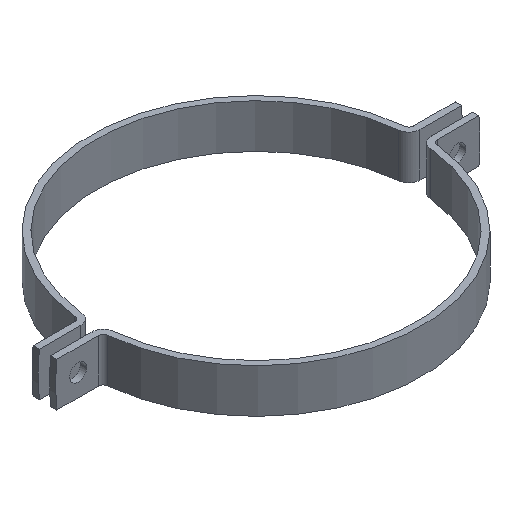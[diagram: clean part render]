
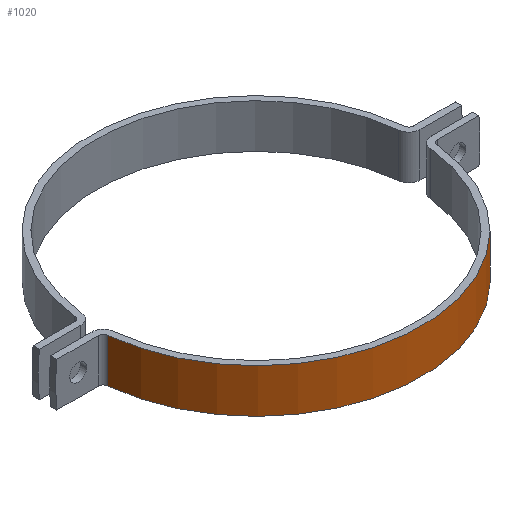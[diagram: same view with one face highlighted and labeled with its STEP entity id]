
A CAD part, isometric view. The second image highlights one B-rep face of the part: STEP entity #1020.
In plain terms, the highlighted cylindrical face has radius 264 mm (diameter 528 mm), a partial arc.
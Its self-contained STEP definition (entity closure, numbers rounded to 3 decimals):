
#41 = DIRECTION ( 'NONE',  ( 0., 0., 1. ) ) ;
#44 = DIRECTION ( 'NONE',  ( 0., 0., 1. ) ) ;
#45 = ORIENTED_EDGE ( 'NONE', *, *, #581, .F. ) ;
#70 = DIRECTION ( 'NONE',  ( 0., 0., 1. ) ) ;
#129 = EDGE_CURVE ( 'NONE', #611, #273, #706, .T. ) ;
#272 = LINE ( 'NONE', #671, #831 ) ;
#273 = VERTEX_POINT ( 'NONE', #1110 ) ;
#278 = DIRECTION ( 'NONE',  ( 0., 0., 1. ) ) ;
#293 = ORIENTED_EDGE ( 'NONE', *, *, #129, .T. ) ;
#295 = EDGE_CURVE ( 'NONE', #989, #1151, #466, .T. ) ;
#358 = CARTESIAN_POINT ( 'NONE',  ( 0., 0., 0. ) ) ;
#363 = CYLINDRICAL_SURFACE ( 'NONE', #814, 264. ) ;
#401 = CARTESIAN_POINT ( 'NONE',  ( 262.696, -26.206, 0. ) ) ;
#453 = ORIENTED_EDGE ( 'NONE', *, *, #1045, .T. ) ;
#466 = CIRCLE ( 'NONE', #729, 264. ) ;
#467 = EDGE_LOOP ( 'NONE', ( #1080, #45, #293, #453 ) ) ;
#513 = CARTESIAN_POINT ( 'NONE',  ( -262.696, -26.206, -70. ) ) ;
#567 = DIRECTION ( 'NONE',  ( 1., 0., 0. ) ) ;
#581 = EDGE_CURVE ( 'NONE', #611, #989, #990, .T. ) ;
#592 = AXIS2_PLACEMENT_3D ( 'NONE', #761, #863, #567 ) ;
#611 = VERTEX_POINT ( 'NONE', #513 ) ;
#671 = CARTESIAN_POINT ( 'NONE',  ( 262.696, -26.206, -70. ) ) ;
#706 = CIRCLE ( 'NONE', #592, 264. ) ;
#729 = AXIS2_PLACEMENT_3D ( 'NONE', #358, #70, #740 ) ;
#740 = DIRECTION ( 'NONE',  ( 1., 0., 0. ) ) ;
#761 = CARTESIAN_POINT ( 'NONE',  ( 0., 0., -70. ) ) ;
#814 = AXIS2_PLACEMENT_3D ( 'NONE', #1127, #278, #1116 ) ;
#831 = VECTOR ( 'NONE', #44, 1000. ) ;
#863 = DIRECTION ( 'NONE',  ( 0., 0., 1. ) ) ;
#989 = VERTEX_POINT ( 'NONE', #1199 ) ;
#990 = LINE ( 'NONE', #1028, #1208 ) ;
#1020 = ADVANCED_FACE ( 'NONE', ( #1172 ), #363, .T. ) ;
#1028 = CARTESIAN_POINT ( 'NONE',  ( -262.696, -26.206, -70. ) ) ;
#1045 = EDGE_CURVE ( 'NONE', #273, #1151, #272, .T. ) ;
#1080 = ORIENTED_EDGE ( 'NONE', *, *, #295, .F. ) ;
#1110 = CARTESIAN_POINT ( 'NONE',  ( 262.696, -26.206, -70. ) ) ;
#1116 = DIRECTION ( 'NONE',  ( 1., 0., 0. ) ) ;
#1127 = CARTESIAN_POINT ( 'NONE',  ( 0., 0., -70. ) ) ;
#1151 = VERTEX_POINT ( 'NONE', #401 ) ;
#1172 = FACE_OUTER_BOUND ( 'NONE', #467, .T. ) ;
#1199 = CARTESIAN_POINT ( 'NONE',  ( -262.696, -26.206, 0. ) ) ;
#1208 = VECTOR ( 'NONE', #41, 1000. ) ;
